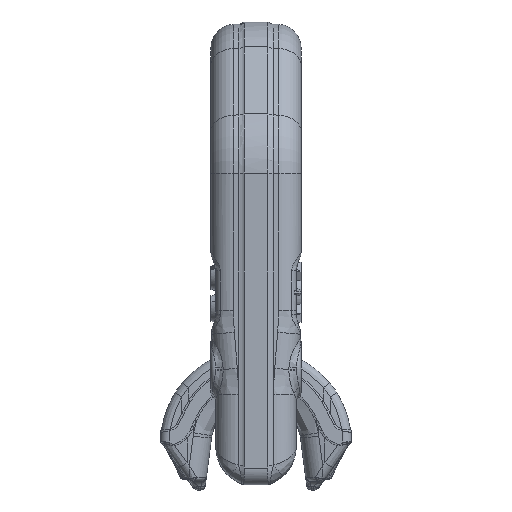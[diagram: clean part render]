
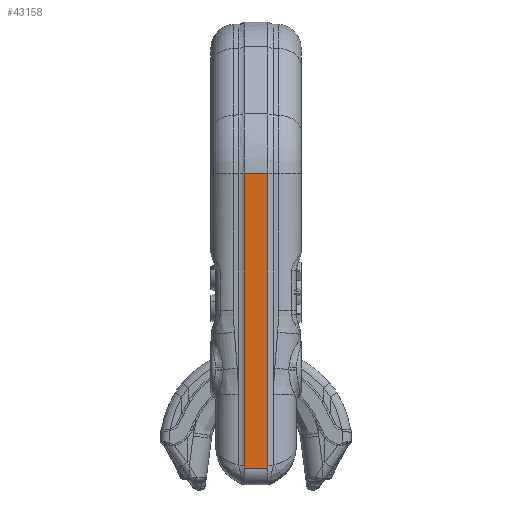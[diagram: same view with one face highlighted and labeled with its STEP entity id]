
A CAD part, front view. The second image highlights one B-rep face of the part: STEP entity #43158.
In plain terms, the highlighted planar face has unit normal (0, -1, 0).
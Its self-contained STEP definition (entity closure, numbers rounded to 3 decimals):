
#43083=CARTESIAN_POINT('',(-1.964,-33.25,45.273));
#43084=VERTEX_POINT('Vertex871',#43083);
#43085=CARTESIAN_POINT('',(-1.964,-33.25,45.17));
#43086=VERTEX_POINT('Vertex870',#43085);
#43087=CARTESIAN_POINT('',(-1.964,-33.25,45.273));
#43088=CARTESIAN_POINT('',(-1.964,-33.25,45.238));
#43089=CARTESIAN_POINT('',(-1.964,-33.25,45.204));
#43090=CARTESIAN_POINT('',(-1.964,-33.25,45.17));
#43091=B_SPLINE_CURVE_WITH_KNOTS('nurbsCrv1434',3,(#43087,#43088,#43089,#43090)
,.UNSPECIFIED.,.F.,.F.,(4,4),(20.246,20.349),.UNSPECIFIED.
);
#43092=EDGE_CURVE('Edge1434',#43084,#43086,#43091,.T.);
#43093=ORIENTED_EDGE('Edgeuse2842',*,*,#43092,.T.);
#43094=CARTESIAN_POINT('',(-1.964,-33.25,-3.667));
#43095=VERTEX_POINT('Vertex872',#43094);
#43096=CARTESIAN_POINT('',(-1.964,-33.25,20.751));
#43097=DIRECTION('',(0.,0.,-1.));
#43098=VECTOR('',#43097,1.);
#43099=LINE('nurbsCrv1435',#43096,#43098);
#43100=EDGE_CURVE('Edge1435',#43086,#43095,#43099,.T.);
#43101=ORIENTED_EDGE('Edgeuse2843',*,*,#43100,.T.);
#43102=CARTESIAN_POINT('',(-1.942,-33.25,-4.101));
#43103=VERTEX_POINT('Vertex873',#43102);
#43104=CARTESIAN_POINT('',(-1.964,-33.25,-3.667));
#43105=CARTESIAN_POINT('',(-1.964,-33.25,-3.813));
#43106=CARTESIAN_POINT('',(-1.957,-33.25,-3.956));
#43107=CARTESIAN_POINT('',(-1.942,-33.25,-4.101));
#43108=B_SPLINE_CURVE_WITH_KNOTS('nurbsCrv1436',3,(#43104,#43105,#43106,#43107)
,.UNSPECIFIED.,.F.,.F.,(4,4),(-0.489,-0.05),
.UNSPECIFIED.);
#43109=EDGE_CURVE('Edge1436',#43095,#43103,#43108,.T.);
#43110=ORIENTED_EDGE('Edgeuse2844',*,*,#43109,.T.);
#43111=CARTESIAN_POINT('',(1.942,-33.25,-4.101));
#43112=VERTEX_POINT('Vertex874',#43111);
#43113=CARTESIAN_POINT('',(0.,-33.25,-4.101));
#43114=DIRECTION('',(1.,0.,0.));
#43115=VECTOR('',#43114,1.);
#43116=LINE('nurbsCrv1437',#43113,#43115);
#43117=EDGE_CURVE('Edge1437',#43103,#43112,#43116,.T.);
#43118=ORIENTED_EDGE('Edgeuse2845',*,*,#43117,.T.);
#43119=CARTESIAN_POINT('',(1.964,-33.25,-3.667));
#43120=VERTEX_POINT('Vertex875',#43119);
#43121=CARTESIAN_POINT('',(1.942,-33.25,-4.101));
#43122=CARTESIAN_POINT('',(1.957,-33.25,-3.956));
#43123=CARTESIAN_POINT('',(1.964,-33.25,-3.813));
#43124=CARTESIAN_POINT('',(1.964,-33.25,-3.667));
#43125=B_SPLINE_CURVE_WITH_KNOTS('nurbsCrv1438',3,(#43121,#43122,#43123,#43124)
,.UNSPECIFIED.,.F.,.F.,(4,4),(-0.438,0.),.UNSPECIFIED.);
#43126=EDGE_CURVE('Edge1438',#43112,#43120,#43125,.T.);
#43127=ORIENTED_EDGE('Edgeuse2846',*,*,#43126,.T.);
#43128=CARTESIAN_POINT('',(1.964,-33.25,45.17));
#43129=VERTEX_POINT('Vertex876',#43128);
#43130=CARTESIAN_POINT('',(1.964,-33.25,20.751));
#43131=DIRECTION('',(0.,0.,1.));
#43132=VECTOR('',#43131,1.);
#43133=LINE('nurbsCrv1439',#43130,#43132);
#43134=EDGE_CURVE('Edge1439',#43120,#43129,#43133,.T.);
#43135=ORIENTED_EDGE('Edgeuse2847',*,*,#43134,.T.);
#43136=CARTESIAN_POINT('',(1.964,-33.25,45.273));
#43137=VERTEX_POINT('Vertex877',#43136);
#43138=CARTESIAN_POINT('',(1.964,-33.25,45.17));
#43139=CARTESIAN_POINT('',(1.964,-33.25,45.204));
#43140=CARTESIAN_POINT('',(1.964,-33.25,45.238));
#43141=CARTESIAN_POINT('',(1.964,-33.25,45.273));
#43142=B_SPLINE_CURVE_WITH_KNOTS('nurbsCrv1440',3,(#43138,#43139,#43140,#43141)
,.UNSPECIFIED.,.F.,.F.,(4,4),(20.349,20.452),.UNSPECIFIED.
);
#43143=EDGE_CURVE('Edge1440',#43129,#43137,#43142,.T.);
#43144=ORIENTED_EDGE('Edgeuse2848',*,*,#43143,.T.);
#43145=CARTESIAN_POINT('',(0.,-33.25,45.273));
#43146=DIRECTION('',(1.,0.,0.));
#43147=VECTOR('',#43146,1.);
#43148=LINE('nurbsCrv1441',#43145,#43147);
#43149=EDGE_CURVE('Edge1441',#43084,#43137,#43148,.T.);
#43150=ORIENTED_EDGE('Edgeuse2849',*,*,#43149,.F.);
#43151=EDGE_LOOP('',(#43093,#43101,#43110,#43118,#43127,#43135,#43144,#43150));
#43152=FACE_OUTER_BOUND('',#43151,.T.);
#43153=CARTESIAN_POINT('',(0.,-33.25,20.586));
#43154=DIRECTION('',(0.,-1.,0.));
#43155=DIRECTION('',(0.,0.,-1.));
#43156=AXIS2_PLACEMENT_3D('',#43153,#43154,#43155);
#43157=PLANE('nurbsSrf582',#43156);
#43158=ADVANCED_FACE('Face582',(#43152),#43157,.T.);
